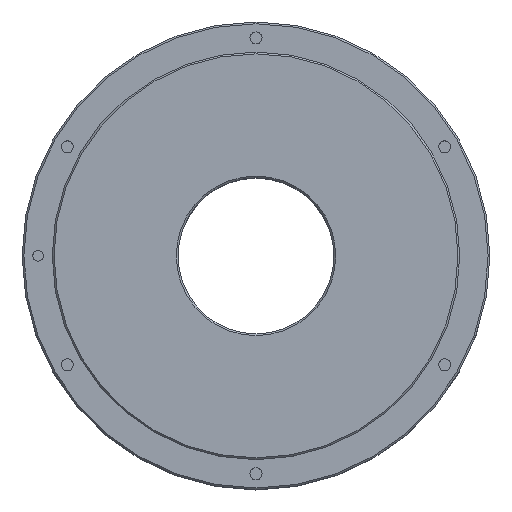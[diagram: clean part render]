
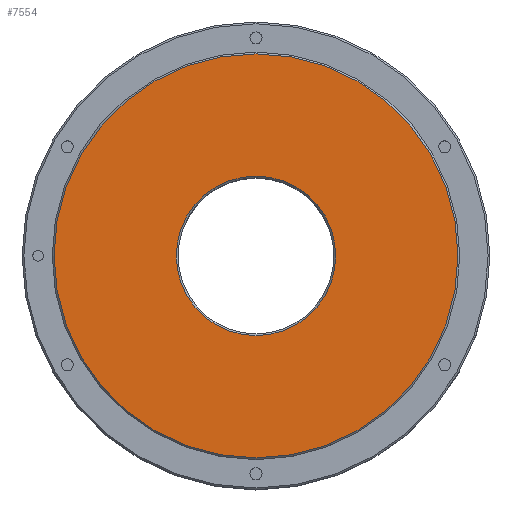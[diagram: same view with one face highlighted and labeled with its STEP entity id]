
A CAD part, top view. The second image highlights one B-rep face of the part: STEP entity #7554.
In plain terms, the highlighted planar face has unit normal (0, 0, 1).
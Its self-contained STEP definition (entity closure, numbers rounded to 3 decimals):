
#156 = CARTESIAN_POINT ( 'NONE',  ( 114., 0., 113. ) ) ;
#930 = DIRECTION ( 'NONE',  ( 1., 0., 0. ) ) ;
#1011 = DIRECTION ( 'NONE',  ( 0., 0., -1. ) ) ;
#1048 = CARTESIAN_POINT ( 'NONE',  ( 0., 0., 113. ) ) ;
#1063 = VERTEX_POINT ( 'NONE', #5676 ) ;
#1124 = CIRCLE ( 'NONE', #4680, 45. ) ;
#1732 = AXIS2_PLACEMENT_3D ( 'NONE', #4757, #10498, #5579 ) ;
#2202 = DIRECTION ( 'NONE',  ( 0., 0., 1. ) ) ;
#2698 = EDGE_CURVE ( 'NONE', #2906, #5896, #6984, .T. ) ;
#2764 = EDGE_CURVE ( 'NONE', #1063, #9683, #1124, .T. ) ;
#2906 = VERTEX_POINT ( 'NONE', #156 ) ;
#3513 = EDGE_CURVE ( 'NONE', #9683, #1063, #5544, .T. ) ;
#3586 = ORIENTED_EDGE ( 'NONE', *, *, #3513, .T. ) ;
#3605 = CARTESIAN_POINT ( 'NONE',  ( -45., 0., 113. ) ) ;
#3810 = EDGE_CURVE ( 'NONE', #5896, #2906, #4843, .T. ) ;
#4532 = AXIS2_PLACEMENT_3D ( 'NONE', #7258, #2202, #8065 ) ;
#4680 = AXIS2_PLACEMENT_3D ( 'NONE', #1048, #1011, #930 ) ;
#4757 = CARTESIAN_POINT ( 'NONE',  ( 0., -44., 113. ) ) ;
#4843 = CIRCLE ( 'NONE', #4532, 114. ) ;
#5069 = DIRECTION ( 'NONE',  ( 0., 0., -1. ) ) ;
#5364 = AXIS2_PLACEMENT_3D ( 'NONE', #10916, #10674, #10365 ) ;
#5544 = CIRCLE ( 'NONE', #8274, 45. ) ;
#5579 = DIRECTION ( 'NONE',  ( 1., 0., 0. ) ) ;
#5676 = CARTESIAN_POINT ( 'NONE',  ( 45., 0., 113. ) ) ;
#5896 = VERTEX_POINT ( 'NONE', #6536 ) ;
#6536 = CARTESIAN_POINT ( 'NONE',  ( -114., 0., 113. ) ) ;
#6794 = FACE_BOUND ( 'NONE', #8010, .T. ) ;
#6984 = CIRCLE ( 'NONE', #5364, 114. ) ;
#7258 = CARTESIAN_POINT ( 'NONE',  ( 0., 0., 113. ) ) ;
#7380 = ORIENTED_EDGE ( 'NONE', *, *, #3810, .T. ) ;
#7554 = ADVANCED_FACE ( 'NONE', ( #6794, #8965 ), #8026, .F. ) ;
#8010 = EDGE_LOOP ( 'NONE', ( #3586, #10417 ) ) ;
#8026 = PLANE ( 'NONE',  #1732 ) ;
#8065 = DIRECTION ( 'NONE',  ( 1., 0., 0. ) ) ;
#8274 = AXIS2_PLACEMENT_3D ( 'NONE', #10012, #5069, #10834 ) ;
#8784 = ORIENTED_EDGE ( 'NONE', *, *, #2698, .T. ) ;
#8965 = FACE_OUTER_BOUND ( 'NONE', #9402, .T. ) ;
#9402 = EDGE_LOOP ( 'NONE', ( #8784, #7380 ) ) ;
#9683 = VERTEX_POINT ( 'NONE', #3605 ) ;
#10012 = CARTESIAN_POINT ( 'NONE',  ( 0., 0., 113. ) ) ;
#10365 = DIRECTION ( 'NONE',  ( 1., 0., 0. ) ) ;
#10417 = ORIENTED_EDGE ( 'NONE', *, *, #2764, .T. ) ;
#10498 = DIRECTION ( 'NONE',  ( 0., 0., -1. ) ) ;
#10674 = DIRECTION ( 'NONE',  ( 0., 0., 1. ) ) ;
#10834 = DIRECTION ( 'NONE',  ( 1., 0., 0. ) ) ;
#10916 = CARTESIAN_POINT ( 'NONE',  ( 0., 0., 113. ) ) ;
